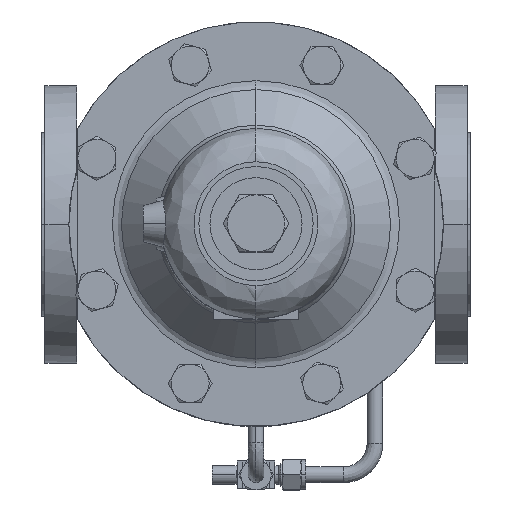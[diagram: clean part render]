
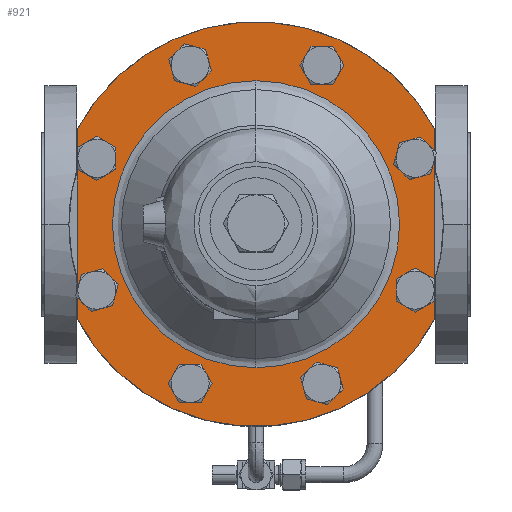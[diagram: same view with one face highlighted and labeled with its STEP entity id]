
A CAD part, top view. The second image highlights one B-rep face of the part: STEP entity #921.
In plain terms, the highlighted planar face has unit normal (0, 0, 1).
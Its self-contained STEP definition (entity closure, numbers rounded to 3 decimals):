
#921=ADVANCED_FACE('',(#4971,#4972),#4970,.T.);
#4970=PLANE('',#11663);
#4971=FACE_OUTER_BOUND('',#11664,.T.);
#4972=FACE_BOUND('',#11665,.T.);
#11660=CARTESIAN_POINT('',(-137.5,-122.75,23.));
#11661=DIRECTION('',(0.,0.,1.));
#11662=DIRECTION('',(1.,0.,0.));
#11663=AXIS2_PLACEMENT_3D('',#11660,#11661,#11662);
#11664=EDGE_LOOP('',(#15468,#15469,#15470,#15471));
#11665=EDGE_LOOP('',(#15472,#15473));
#15468=ORIENTED_EDGE('',*,*,#17593,.F.);
#15469=ORIENTED_EDGE('',*,*,#17588,.T.);
#15470=ORIENTED_EDGE('',*,*,#17594,.F.);
#15471=ORIENTED_EDGE('',*,*,#17592,.F.);
#15472=ORIENTED_EDGE('',*,*,#17595,.T.);
#15473=ORIENTED_EDGE('',*,*,#17596,.T.);
#17588=EDGE_CURVE('',#24771,#24764,#24772,.T.);
#17592=EDGE_CURVE('',#24791,#24784,#24798,.T.);
#17593=EDGE_CURVE('',#24771,#24791,#24804,.T.);
#17594=EDGE_CURVE('',#24784,#24764,#24810,.T.);
#17595=EDGE_CURVE('',#24816,#24817,#24818,.T.);
#17596=EDGE_CURVE('',#24817,#24816,#24824,.T.);
#24764=VERTEX_POINT('',#36045);
#24771=VERTEX_POINT('',#36049);
#24772=LINE('',#36050,#36051);
#24784=VERTEX_POINT('',#36056);
#24791=VERTEX_POINT('',#36060);
#24798=LINE('',#36064,#36065);
#24804=CIRCLE('',#36070,127.5);
#24810=CIRCLE('',#36074,127.5);
#24816=VERTEX_POINT('',#36075);
#24817=VERTEX_POINT('',#36076);
#24818=CIRCLE('',#36080,90.456);
#24824=CIRCLE('',#36084,90.456);
#36045=CARTESIAN_POINT('',(-59.529,112.75,23.));
#36049=CARTESIAN_POINT('',(59.529,112.75,23.));
#36050=CARTESIAN_POINT('',(59.529,112.75,23.));
#36051=VECTOR('',#36052,119.058);
#36052=DIRECTION('',(-1.,0.,0.));
#36056=CARTESIAN_POINT('',(-59.529,-112.75,23.));
#36060=CARTESIAN_POINT('',(59.529,-112.75,23.));
#36064=CARTESIAN_POINT('',(59.529,-112.75,23.));
#36065=VECTOR('',#36066,119.058);
#36066=DIRECTION('',(-1.,0.,0.));
#36067=CARTESIAN_POINT('',(0.,0.,23.));
#36068=DIRECTION('',(0.,0.,-1.));
#36069=DIRECTION('',(0.467,0.884,0.));
#36070=AXIS2_PLACEMENT_3D('',#36067,#36068,#36069);
#36071=CARTESIAN_POINT('',(0.,0.,23.));
#36072=DIRECTION('',(0.,0.,-1.));
#36073=DIRECTION('',(1.,0.,0.));
#36074=AXIS2_PLACEMENT_3D('',#36071,#36072,#36073);
#36075=CARTESIAN_POINT('',(-90.456,0.,23.));
#36076=CARTESIAN_POINT('',(90.456,0.,23.));
#36077=CARTESIAN_POINT('',(0.,0.,23.));
#36078=DIRECTION('',(0.,0.,-1.));
#36079=DIRECTION('',(-1.,0.,0.));
#36080=AXIS2_PLACEMENT_3D('',#36077,#36078,#36079);
#36081=CARTESIAN_POINT('',(0.,0.,23.));
#36082=DIRECTION('',(0.,0.,-1.));
#36083=DIRECTION('',(-1.,0.,0.));
#36084=AXIS2_PLACEMENT_3D('',#36081,#36082,#36083);
